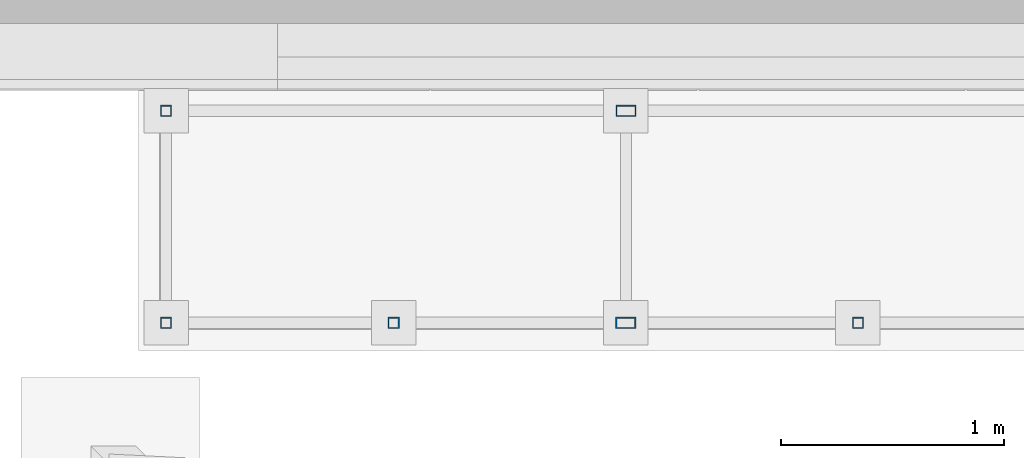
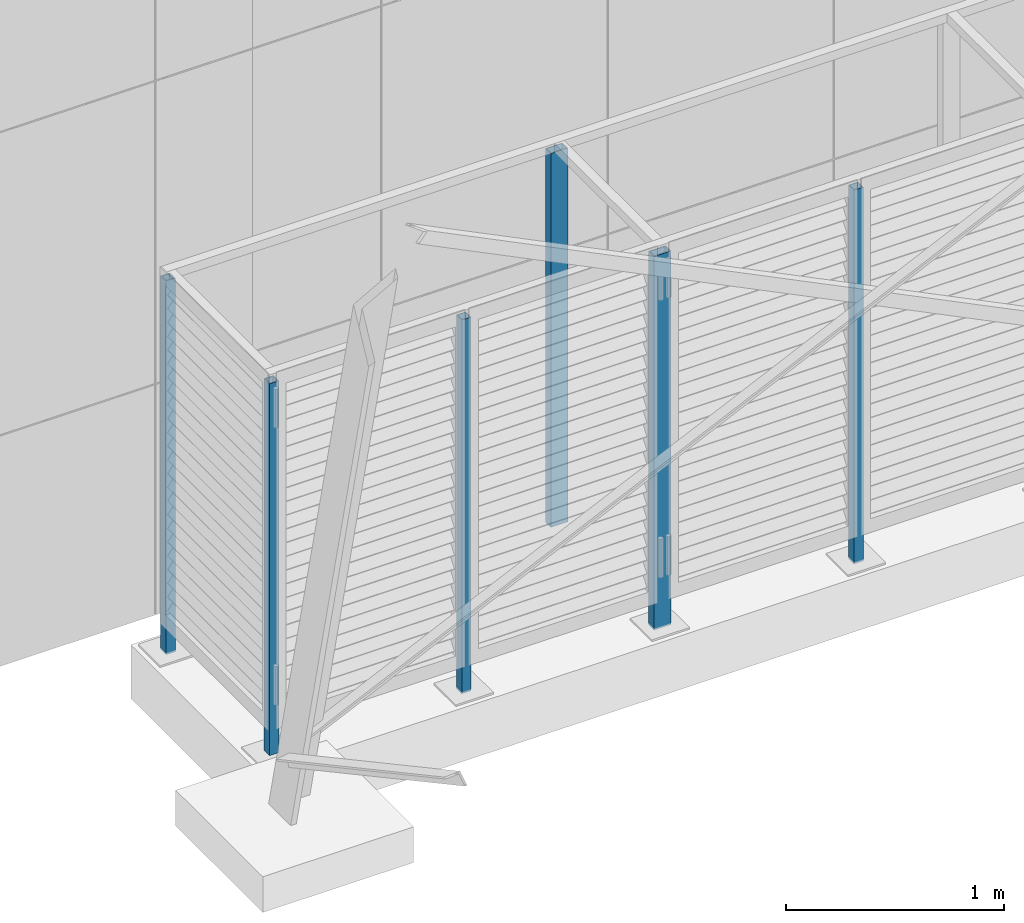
# One storey, part 2 of 418: 6 columns.
"""IFC2X3 building model written with IfcOpenShell, lengths in millimetres."""

import ifcopenshell
import ifcopenshell.guid

model = None  # the IFC model being written
_history = None  # IfcOwnerHistory: only IFC2X3 demands one
_inside = {}  # id of a spatial element -> (the spatial element, [elements in it])
_under = {}  # id of a project, library or spatial element -> (it, [spatial elements below it])
_declared = {}  # id of a project -> (the project, [libraries it declares])
_typed = {}  # id of a type object -> (the type object, [elements of that type])
_made_of = {}  # id of a material, layer set ... -> (it, [elements and type objects made of it])


def new_model(schema):
    """Start an empty IFC model of exactly this schema.

    Asked for "IFC4X3", IfcOpenShell would pick the latest addendum, in which some entities
    have other attributes; the version numbers below select the first issue.
    IFC2X3 requires an IfcOwnerHistory on every rooted entity: one is made here for all.
    """
    global model, _history
    if schema == "IFC4X3":
        model = ifcopenshell.file(schema_version=(4, 3, 0, 0))
    else:
        model = ifcopenshell.file(schema=schema)
    _inside.clear()
    _under.clear()
    _declared.clear()
    _typed.clear()
    _made_of.clear()
    _history = None
    if model.schema == "IFC2X3":
        org = make("IfcOrganization", Name="unknown")
        user = make(
            "IfcPersonAndOrganization",
            ThePerson=make("IfcPerson", FamilyName="unknown"),
            TheOrganization=org,
        )
        app = make(
            "IfcApplication",
            ApplicationDeveloper=org,
            Version="unknown",
            ApplicationFullName="unknown",
            ApplicationIdentifier="unknown",
        )
        _history = make(
            "IfcOwnerHistory",
            OwningUser=user,
            OwningApplication=app,
            ChangeAction="ADDED",
            CreationDate=0,
        )
    return model


def make(cls, **values):
    """One entity of the class cls with the attributes given. An attribute that is None is left unset."""
    return model.create_entity(
        cls, **{name: value for name, value in values.items() if value is not None}
    )


def entity(cls, *values):
    """Any entity or typed value of the class cls, its attributes in the order of the schema. None: left unset."""
    e = model.create_entity(cls)
    for i, value in enumerate(values):
        if value is not None:
            e[i] = value
    return e


def rooted(cls, **values):
    """An entity with a GlobalId (a new one), such as an element, a storey or a relation."""
    return make(cls, GlobalId=ifcopenshell.guid.new(), OwnerHistory=_history, **values)


def si_unit(unit_type, name, prefix=None):
    """IfcSIUnit, for example si_unit("LENGTHUNIT", "METRE", prefix="MILLI")."""
    return make("IfcSIUnit", UnitType=unit_type, Prefix=prefix, Name=name)


def converted_unit(unit_type, name, factor, base, dimensions=None, offset=None):
    """IfcConversionBasedUnit, such as the inch: factor (a typed value) times the base unit."""
    return make(
        "IfcConversionBasedUnit"
        if offset is None
        else "IfcConversionBasedUnitWithOffset",
        ConversionOffset=offset,
        Dimensions=None
        if dimensions is None
        else entity("IfcDimensionalExponents", *dimensions),
        UnitType=unit_type,
        Name=name,
        ConversionFactor=make(
            "IfcMeasureWithUnit", ValueComponent=factor, UnitComponent=base
        ),
    )


def derived_unit(unit_type, elements):
    """IfcDerivedUnit: a product of units, each with its exponent."""
    return make(
        "IfcDerivedUnit",
        Elements=[
            make("IfcDerivedUnitElement", Unit=unit, Exponent=power)
            for unit, power in elements
        ],
        UnitType=unit_type,
    )


def money_unit(currency):
    """IfcMonetaryUnit."""
    return make("IfcMonetaryUnit", Currency=currency)


def assignment(units):
    """IfcUnitAssignment: the units of a project."""
    return None if units is None else make("IfcUnitAssignment", Units=units)


def point(xyz):
    """IfcCartesianPoint."""
    return None if xyz is None else make("IfcCartesianPoint", Coordinates=xyz)


def direction(xyz):
    """IfcDirection."""
    return None if xyz is None else make("IfcDirection", DirectionRatios=xyz)


def frame(location, z_axis=None, x_axis=None):
    """IfcAxis2Placement3D, a coordinate frame: its origin and axes. An axis left out is left unset."""
    return make(
        "IfcAxis2Placement3D",
        Location=point(location),
        Axis=direction(z_axis),
        RefDirection=direction(x_axis),
    )


def origin_with_axes():
    """The frame at (0, 0, 0) with the z axis (0, 0, 1) and the x axis (1, 0, 0) written out."""
    return frame((0.0, 0.0, 0.0), z_axis=(0.0, 0.0, 1.0), x_axis=(1.0, 0.0, 0.0))


def place(relative_to, where):
    """IfcLocalPlacement: puts the frame where relative to a parent placement (None: the world)."""
    return make(
        "IfcLocalPlacement", PlacementRelTo=relative_to, RelativePlacement=where
    )


def context(
    kind, dimensions, precision=None, world=None, true_north=None, identifier=None
):
    """IfcGeometricRepresentationContext, for example the 3D "Model" context."""
    return make(
        "IfcGeometricRepresentationContext",
        ContextIdentifier=identifier,
        ContextType=kind,
        CoordinateSpaceDimension=dimensions,
        Precision=precision,
        WorldCoordinateSystem=world,
        TrueNorth=true_north,
    )


def subcontext(parent, identifier, kind, view, scale=None):
    """IfcGeometricRepresentationSubContext, for example "Body" below "Model"."""
    return make(
        "IfcGeometricRepresentationSubContext",
        ContextIdentifier=identifier,
        ContextType=kind,
        ParentContext=parent,
        TargetScale=scale,
        TargetView=view,
    )


def project(units=None, contexts=None):
    """IfcProject with its units and contexts."""
    return rooted(
        "IfcProject",
        Name="project",
        RepresentationContexts=contexts,
        UnitsInContext=assignment(units),
    )


def spatial(cls, under=None, at=None, **own):
    """A site, building, storey or space (cls), placed at a placement, below another one or the project."""
    s = rooted(cls, ObjectPlacement=at, **own)
    if under is not None:
        _under.setdefault(under.id(), (under, []))[1].append(s)
    return s


def polyline(points):
    """IfcPolyline through the points."""
    return make("IfcPolyline", Points=[point(p) for p in points])


def outline(outer, holes=None, kind="AREA"):
    """IfcArbitraryClosedProfileDef: a profile drawn as a closed curve; with holes, ...WithVoids."""
    if holes is None:
        return make("IfcArbitraryClosedProfileDef", ProfileType=kind, OuterCurve=outer)
    return make(
        "IfcArbitraryProfileDefWithVoids",
        ProfileType=kind,
        OuterCurve=outer,
        InnerCurves=holes,
    )


def extrude(swept, where, along, depth):
    """IfcExtrudedAreaSolid: the profile swept, set in the frame where, extruded along a direction by depth."""
    return make(
        "IfcExtrudedAreaSolid",
        SweptArea=swept,
        Position=where,
        ExtrudedDirection=direction(along),
        Depth=depth,
    )


def shape(context_of_items, identifier, shape_type, items):
    """IfcShapeRepresentation: the items that make up one representation, for example the "Body"."""
    return make(
        "IfcShapeRepresentation",
        ContextOfItems=context_of_items,
        RepresentationIdentifier=identifier,
        RepresentationType=shape_type,
        Items=items,
    )


def material(Name=None, Category=None):
    """IfcMaterial."""
    return make("IfcMaterial", Name=Name, Category=Category)


def made_of(thing, what):
    """Note that an element or type object is made of a material, layer set ...; save() writes the relation."""
    if what is not None:
        _made_of.setdefault(what.id(), (what, []))[1].append(thing)
    return thing


def type_object(cls, material=None, **own):
    """A type object (cls), such as IfcWallType, which elements share."""
    return made_of(rooted(cls, **own), material)


def element(
    cls,
    number,
    at=None,
    inside=None,
    cuts=None,
    type_object=None,
    material=None,
    context=None,
    identifier="Body",
    shape_type=None,
    held_by="IfcProductDefinitionShape",
    body=None,
    shapes=None,
    **own,
):
    """One element of the class cls, such as IfcWall. Its Tag is "e" and its number.

    at: its placement. inside: the storey or other place that contains it. cuts: it is an
    opening in that element (IfcRelVoidsElement). A single representation is given by context,
    identifier, shape_type and body (its items); several are given by shapes. held_by: the class
    of the entity that holds the representations. save() writes the other relations.
    """
    e = rooted(cls, Tag="e%d" % number, ObjectPlacement=at, **own)
    if body is not None:
        shapes = [shape(context, identifier, shape_type, body)]
    if shapes is not None:
        e.Representation = make(held_by, Representations=shapes)
    if inside is not None:
        _inside.setdefault(inside.id(), (inside, []))[1].append(e)
    if cuts is not None:
        rooted(
            "IfcRelVoidsElement", RelatingBuildingElement=cuts, RelatedOpeningElement=e
        )
    if type_object is not None:
        _typed.setdefault(type_object.id(), (type_object, []))[1].append(e)
    return made_of(e, material)


def aggregate(whole, parts):
    """IfcRelAggregates: a whole, such as a stair, and the parts it consists of."""
    return rooted("IfcRelAggregates", RelatingObject=whole, RelatedObjects=parts)


def save(model, path):
    """Write the relations noted so far, then the file.

    IfcRelAggregates (storeys below a building ...), IfcRelContainedInSpatialStructure (elements
    in a storey), IfcRelDefinesByType, IfcRelAssociatesMaterial and IfcRelDeclares: one each for
    every whole, place, type object, material and project.
    """
    for whole, parts in _under.values():
        aggregate(whole, parts)
    for where, things in _inside.values():
        rooted(
            "IfcRelContainedInSpatialStructure",
            RelatedElements=things,
            RelatingStructure=where,
        )
    for kind, things in _typed.values():
        rooted("IfcRelDefinesByType", RelatedObjects=things, RelatingType=kind)
    for what, things in _made_of.values():
        rooted("IfcRelAssociatesMaterial", RelatedObjects=things, RelatingMaterial=what)
    for by, libraries in _declared.values():
        rooted("IfcRelDeclares", RelatingContext=by, RelatedDefinitions=libraries)
    model.write(path)


model = new_model("IFC2X3")

# Units and contexts
model_context = context("Model", 3, precision=0.01, world=origin_with_axes(), true_north=direction((0.0, 1.0)))
body_context = subcontext(model_context, "Body", "Model", "MODEL_VIEW")
ifc_project = project(units=[si_unit("LENGTHUNIT", "METRE", prefix="MILLI"), si_unit("AREAUNIT", "SQUARE_METRE"), si_unit("VOLUMEUNIT", "CUBIC_METRE"), converted_unit("PLANEANGLEUNIT", "DEGREE", entity("IfcPlaneAngleMeasure", 0.0174532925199), si_unit("PLANEANGLEUNIT", "RADIAN"), dimensions=[0, 0, 0, 0, 0, 0, 0]), si_unit("SOLIDANGLEUNIT", "STERADIAN"), money_unit("EUR"), converted_unit("TIMEUNIT", "Year", entity("IfcTimeMeasure", 31556926.0), si_unit("TIMEUNIT", "SECOND"), dimensions=[0, 0, 1, 0, 0, 0, 0]), si_unit("MASSUNIT", "GRAM", prefix="KILO"), si_unit("THERMODYNAMICTEMPERATUREUNIT", "DEGREE_CELSIUS"), si_unit("LUMINOUSINTENSITYUNIT", "LUMEN"), si_unit("ENERGYUNIT", "JOULE", prefix="MEGA"), derived_unit("THERMALCONDUCTANCEUNIT", [(si_unit("POWERUNIT", "WATT"), 1), (si_unit("LENGTHUNIT", "METRE"), -1), (si_unit("THERMODYNAMICTEMPERATUREUNIT", "KELVIN"), -1)]), derived_unit("SPECIFICHEATCAPACITYUNIT", [(si_unit("ENERGYUNIT", "JOULE"), 1), (si_unit("MASSUNIT", "GRAM", prefix="KILO"), -1), (si_unit("THERMODYNAMICTEMPERATUREUNIT", "KELVIN"), -1)]), derived_unit("MASSDENSITYUNIT", [(si_unit("MASSUNIT", "GRAM", prefix="KILO"), 1), (si_unit("VOLUMEUNIT", "CUBIC_METRE"), -1)])], contexts=[model_context])

# Site, building, storey
site_placement = place(None, origin_with_axes())
site = spatial("IfcSite", under=ifc_project, at=site_placement, Name="Paldiski mnt 245/1, Tallinn, Harjumaa", CompositionType="COMPLEX")
building_placement = place(site_placement, origin_with_axes())
building = spatial("IfcBuilding", under=site, at=building_placement, Name="RKAS Hoone üldnimetus (kasutust iseloomustav) -> IFC Project Manager -> SOLIBRI", CompositionType="ELEMENT")
storey_placement = place(building_placement, origin_with_axes())
storey = spatial("IfcBuildingStorey", under=building, at=storey_placement, Name="Esimene korrus", CompositionType="ELEMENT", Elevation=0.0)

# Columns
ifc_material = material(Name="VKR-04_Tellis")
column_type_1 = type_object("IfcColumnType", Name="RHS90X50X5 50 x 90", PredefinedType="COLUMN")
for number, where, z_axis, x_axis in (
    (1, (-53729.0, -580.710221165, -150.0), (0.0, 0.0, 1.0), (0.0, -1.0, 0.0)),
    (2, (-53730.0, -1530.71022117, -150.0), (0.0, 0.0, 1.0), (0.0, -1.0, 0.0)),
):
    element("IfcColumn", number, at=place(storey_placement, frame(where, z_axis=z_axis, x_axis=x_axis)), inside=storey, type_object=column_type_1, material=ifc_material, Name="Teraspost", ObjectType="COLUMN", context=body_context, shape_type="SweptSolid", body=[
        extrude(outline(polyline([(-25.0, -45.0), (25.0, -45.0), (25.0, 45.0), (-25.0, 45.0), (-25.0, -45.0)]), holes=[polyline([(-20.0, -40.0), (-20.0, 40.0), (20.0, 40.0), (20.0, -40.0), (-20.0, -40.0)])]), origin_with_axes(), (0.0, 0.0, 1.0), 2095.0),
    ])
column_type_2 = type_object("IfcColumnType", Name="CFRHS50X50X5 50 x 50", PredefinedType="COLUMN")
for number, where, z_axis, x_axis in (
    (3, (-54769.7862711, -1530.71022117, -150.0), (0.0, 0.0, 1.0), (1.0, 0.0, 0.0)),
    (4, (-52690.0, -1530.71022117, -150.0), (0.0, 0.0, 1.0), (1.0, 0.0, 0.0)),
    (5, (-55789.3907599, -580.710221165, -150.0), (0.0, 0.0, 1.0), (1.0, 0.0, 0.0)),
):
    element("IfcColumn", number, at=place(storey_placement, frame(where, z_axis=z_axis, x_axis=x_axis)), inside=storey, type_object=column_type_2, material=ifc_material, Name="Teraspost", ObjectType="COLUMN", context=body_context, shape_type="SweptSolid", body=[
        extrude(outline(polyline([(-25.0, -25.0), (25.0, -25.0), (25.0, 25.0), (-25.0, 25.0), (-25.0, -25.0)]), holes=[polyline([(-20.0, -20.0), (-20.0, 20.0), (20.0, 20.0), (20.0, -20.0), (-20.0, -20.0)])]), origin_with_axes(), (0.0, 0.0, 1.0), 2095.0),
    ])
column_placement = place(storey_placement, frame((-55789.3907599, -1530.71022117, -140.0), z_axis=(0.0, 0.0, 1.0), x_axis=(1.0, 0.0, 0.0)))
element("IfcColumn", 6, at=column_placement, inside=storey, type_object=column_type_2, material=ifc_material, Name="Teraspost", ObjectType="COLUMN", context=body_context, shape_type="SweptSolid", body=[
    extrude(outline(polyline([(-25.0, -25.0), (25.0, -25.0), (25.0, 25.0), (-25.0, 25.0), (-25.0, -25.0)]), holes=[polyline([(-20.0, -20.0), (-20.0, 20.0), (20.0, 20.0), (20.0, -20.0), (-20.0, -20.0)])]), origin_with_axes(), (0.0, 0.0, 1.0), 2085.0),
])

save(model, "model.ifc")
